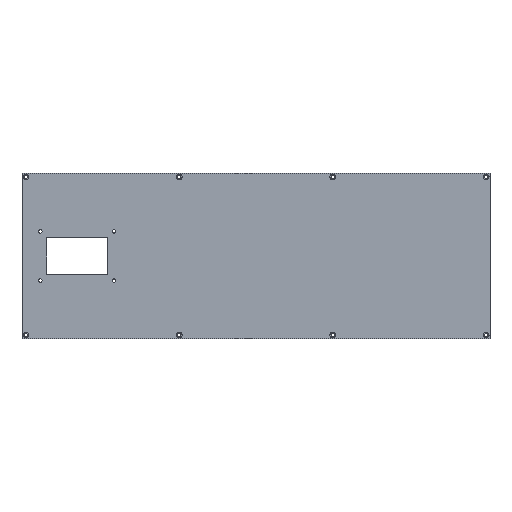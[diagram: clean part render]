
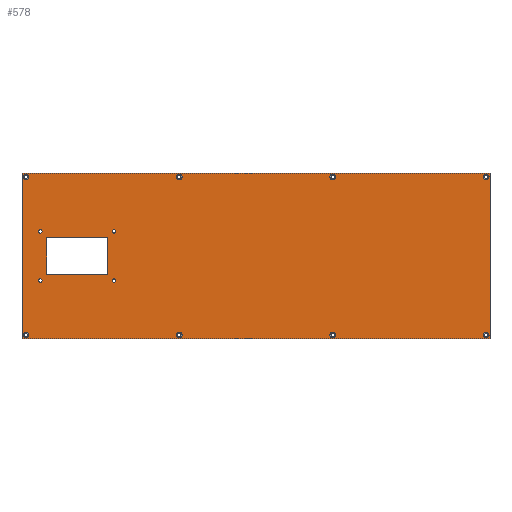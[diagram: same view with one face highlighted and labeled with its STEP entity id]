
A CAD part, top view. The second image highlights one B-rep face of the part: STEP entity #578.
In plain terms, the highlighted planar face has unit normal (0, 0, 1).
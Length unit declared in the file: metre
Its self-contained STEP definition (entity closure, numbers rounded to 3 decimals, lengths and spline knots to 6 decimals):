
#12=LINE('',#947,#36);
#13=LINE('',#950,#37);
#14=LINE('',#952,#38);
#15=LINE('',#954,#39);
#16=LINE('',#955,#40);
#17=LINE('',#958,#41);
#18=LINE('',#960,#42);
#19=LINE('',#962,#43);
#36=VECTOR('',#775,1.);
#37=VECTOR('',#776,1.);
#38=VECTOR('',#777,1.);
#39=VECTOR('',#778,1.);
#40=VECTOR('',#779,1.);
#41=VECTOR('',#780,1.);
#42=VECTOR('',#781,1.);
#43=VECTOR('',#782,1.);
#60=PLANE('',#645);
#94=ORIENTED_EDGE('',*,*,#222,.F.);
#95=ORIENTED_EDGE('',*,*,#223,.F.);
#96=ORIENTED_EDGE('',*,*,#224,.F.);
#97=ORIENTED_EDGE('',*,*,#225,.F.);
#98=ORIENTED_EDGE('',*,*,#226,.F.);
#99=ORIENTED_EDGE('',*,*,#227,.F.);
#100=ORIENTED_EDGE('',*,*,#228,.F.);
#101=ORIENTED_EDGE('',*,*,#229,.F.);
#102=ORIENTED_EDGE('',*,*,#230,.F.);
#103=ORIENTED_EDGE('',*,*,#231,.F.);
#104=ORIENTED_EDGE('',*,*,#232,.F.);
#105=ORIENTED_EDGE('',*,*,#233,.F.);
#106=ORIENTED_EDGE('',*,*,#234,.F.);
#107=ORIENTED_EDGE('',*,*,#235,.T.);
#108=ORIENTED_EDGE('',*,*,#236,.T.);
#109=ORIENTED_EDGE('',*,*,#237,.F.);
#110=ORIENTED_EDGE('',*,*,#238,.F.);
#111=ORIENTED_EDGE('',*,*,#239,.T.);
#112=ORIENTED_EDGE('',*,*,#240,.T.);
#113=ORIENTED_EDGE('',*,*,#241,.F.);
#222=EDGE_CURVE('',#286,#286,#342,.T.);
#223=EDGE_CURVE('',#287,#287,#343,.T.);
#224=EDGE_CURVE('',#288,#288,#344,.T.);
#225=EDGE_CURVE('',#289,#289,#345,.T.);
#226=EDGE_CURVE('',#290,#290,#346,.T.);
#227=EDGE_CURVE('',#291,#291,#347,.T.);
#228=EDGE_CURVE('',#292,#292,#348,.T.);
#229=EDGE_CURVE('',#293,#293,#349,.T.);
#230=EDGE_CURVE('',#294,#294,#350,.T.);
#231=EDGE_CURVE('',#295,#295,#351,.T.);
#232=EDGE_CURVE('',#296,#296,#352,.T.);
#233=EDGE_CURVE('',#297,#297,#353,.T.);
#234=EDGE_CURVE('',#298,#299,#12,.T.);
#235=EDGE_CURVE('',#298,#300,#13,.T.);
#236=EDGE_CURVE('',#300,#301,#14,.T.);
#237=EDGE_CURVE('',#299,#301,#15,.T.);
#238=EDGE_CURVE('',#302,#303,#16,.T.);
#239=EDGE_CURVE('',#302,#304,#17,.T.);
#240=EDGE_CURVE('',#304,#305,#18,.T.);
#241=EDGE_CURVE('',#303,#305,#19,.T.);
#286=VERTEX_POINT('',#924);
#287=VERTEX_POINT('',#926);
#288=VERTEX_POINT('',#928);
#289=VERTEX_POINT('',#930);
#290=VERTEX_POINT('',#932);
#291=VERTEX_POINT('',#934);
#292=VERTEX_POINT('',#936);
#293=VERTEX_POINT('',#938);
#294=VERTEX_POINT('',#940);
#295=VERTEX_POINT('',#942);
#296=VERTEX_POINT('',#944);
#297=VERTEX_POINT('',#946);
#298=VERTEX_POINT('',#948);
#299=VERTEX_POINT('',#949);
#300=VERTEX_POINT('',#951);
#301=VERTEX_POINT('',#953);
#302=VERTEX_POINT('',#956);
#303=VERTEX_POINT('',#957);
#304=VERTEX_POINT('',#959);
#305=VERTEX_POINT('',#961);
#342=CIRCLE('',#646,0.0037);
#343=CIRCLE('',#647,0.0037);
#344=CIRCLE('',#648,0.0037);
#345=CIRCLE('',#649,0.0037);
#346=CIRCLE('',#650,0.0037);
#347=CIRCLE('',#651,0.0037);
#348=CIRCLE('',#652,0.0037);
#349=CIRCLE('',#653,0.0037);
#350=CIRCLE('',#654,0.0022);
#351=CIRCLE('',#655,0.0022);
#352=CIRCLE('',#656,0.0022);
#353=CIRCLE('',#657,0.0022);
#382=EDGE_LOOP('',(#94));
#383=EDGE_LOOP('',(#95));
#384=EDGE_LOOP('',(#96));
#385=EDGE_LOOP('',(#97));
#386=EDGE_LOOP('',(#98));
#387=EDGE_LOOP('',(#99));
#388=EDGE_LOOP('',(#100));
#389=EDGE_LOOP('',(#101));
#390=EDGE_LOOP('',(#102));
#391=EDGE_LOOP('',(#103));
#392=EDGE_LOOP('',(#104));
#393=EDGE_LOOP('',(#105));
#394=EDGE_LOOP('',(#106,#107,#108,#109));
#395=EDGE_LOOP('',(#110,#111,#112,#113));
#474=FACE_BOUND('',#382,.T.);
#475=FACE_BOUND('',#383,.T.);
#476=FACE_BOUND('',#384,.T.);
#477=FACE_BOUND('',#385,.T.);
#478=FACE_BOUND('',#386,.T.);
#479=FACE_BOUND('',#387,.T.);
#480=FACE_BOUND('',#388,.T.);
#481=FACE_BOUND('',#389,.T.);
#482=FACE_BOUND('',#390,.T.);
#483=FACE_BOUND('',#391,.T.);
#484=FACE_BOUND('',#392,.T.);
#485=FACE_BOUND('',#393,.T.);
#486=FACE_BOUND('',#394,.T.);
#487=FACE_BOUND('',#395,.T.);
#578=ADVANCED_FACE('',(#474,#475,#476,#477,#478,#479,#480,#481,#482,#483,
#484,#485,#486,#487),#60,.T.);
#645=AXIS2_PLACEMENT_3D('',#922,#749,#750);
#646=AXIS2_PLACEMENT_3D('',#923,#751,#752);
#647=AXIS2_PLACEMENT_3D('',#925,#753,#754);
#648=AXIS2_PLACEMENT_3D('',#927,#755,#756);
#649=AXIS2_PLACEMENT_3D('',#929,#757,#758);
#650=AXIS2_PLACEMENT_3D('',#931,#759,#760);
#651=AXIS2_PLACEMENT_3D('',#933,#761,#762);
#652=AXIS2_PLACEMENT_3D('',#935,#763,#764);
#653=AXIS2_PLACEMENT_3D('',#937,#765,#766);
#654=AXIS2_PLACEMENT_3D('',#939,#767,#768);
#655=AXIS2_PLACEMENT_3D('',#941,#769,#770);
#656=AXIS2_PLACEMENT_3D('',#943,#771,#772);
#657=AXIS2_PLACEMENT_3D('',#945,#773,#774);
#749=DIRECTION('',(0.,0.,1.));
#750=DIRECTION('',(1.,0.,0.));
#751=DIRECTION('',(0.,0.,1.));
#752=DIRECTION('',(1.,0.,0.));
#753=DIRECTION('',(0.,0.,1.));
#754=DIRECTION('',(1.,0.,0.));
#755=DIRECTION('',(0.,0.,1.));
#756=DIRECTION('',(1.,0.,0.));
#757=DIRECTION('',(0.,0.,1.));
#758=DIRECTION('',(1.,0.,0.));
#759=DIRECTION('',(0.,0.,1.));
#760=DIRECTION('',(1.,0.,0.));
#761=DIRECTION('',(0.,0.,1.));
#762=DIRECTION('',(1.,0.,0.));
#763=DIRECTION('',(0.,0.,1.));
#764=DIRECTION('',(1.,0.,0.));
#765=DIRECTION('',(0.,0.,1.));
#766=DIRECTION('',(1.,0.,0.));
#767=DIRECTION('',(0.,0.,1.));
#768=DIRECTION('',(1.,0.,0.));
#769=DIRECTION('',(0.,0.,1.));
#770=DIRECTION('',(1.,0.,0.));
#771=DIRECTION('',(0.,0.,1.));
#772=DIRECTION('',(1.,0.,0.));
#773=DIRECTION('',(0.,0.,1.));
#774=DIRECTION('',(1.,0.,0.));
#775=DIRECTION('',(-1.,0.,0.));
#776=DIRECTION('',(0.,1.,0.));
#777=DIRECTION('',(-1.,0.,0.));
#778=DIRECTION('',(0.,1.,0.));
#779=DIRECTION('',(0.,1.,0.));
#780=DIRECTION('',(-1.,0.,0.));
#781=DIRECTION('',(0.,1.,0.));
#782=DIRECTION('',(-1.,0.,0.));
#922=CARTESIAN_POINT('',(0.,0.,0.012));
#923=CARTESIAN_POINT('',(-0.1,0.103111,0.012));
#924=CARTESIAN_POINT('',(-0.0963,0.103111,0.012));
#925=CARTESIAN_POINT('',(0.1,0.103111,0.012));
#926=CARTESIAN_POINT('',(0.1037,0.103111,0.012));
#927=CARTESIAN_POINT('',(0.3,0.103111,0.012));
#928=CARTESIAN_POINT('',(0.3037,0.103111,0.012));
#929=CARTESIAN_POINT('',(0.3,-0.103111,0.012));
#930=CARTESIAN_POINT('',(0.3037,-0.103111,0.012));
#931=CARTESIAN_POINT('',(-0.1,-0.103111,0.012));
#932=CARTESIAN_POINT('',(-0.0963,-0.103111,0.012));
#933=CARTESIAN_POINT('',(-0.3,-0.103111,0.012));
#934=CARTESIAN_POINT('',(-0.2963,-0.103111,0.012));
#935=CARTESIAN_POINT('',(0.1,-0.103111,0.012));
#936=CARTESIAN_POINT('',(0.1037,-0.103111,0.012));
#937=CARTESIAN_POINT('',(-0.3,0.103111,0.012));
#938=CARTESIAN_POINT('',(-0.2963,0.103111,0.012));
#939=CARTESIAN_POINT('',(-0.281,-0.032,0.012));
#940=CARTESIAN_POINT('',(-0.2788,-0.032,0.012));
#941=CARTESIAN_POINT('',(-0.185,-0.032,0.012));
#942=CARTESIAN_POINT('',(-0.1828,-0.032,0.012));
#943=CARTESIAN_POINT('',(-0.185,0.032,0.012));
#944=CARTESIAN_POINT('',(-0.1828,0.032,0.012));
#945=CARTESIAN_POINT('',(-0.281,0.032,0.012));
#946=CARTESIAN_POINT('',(-0.2788,0.032,0.012));
#947=CARTESIAN_POINT('',(0.,-0.108111,0.012));
#948=CARTESIAN_POINT('',(0.305,-0.108111,0.012));
#949=CARTESIAN_POINT('',(-0.305,-0.108111,0.012));
#950=CARTESIAN_POINT('',(0.305,0.,0.012));
#951=CARTESIAN_POINT('',(0.305,0.108111,0.012));
#952=CARTESIAN_POINT('',(0.,0.108111,0.012));
#953=CARTESIAN_POINT('',(-0.305,0.108111,0.012));
#954=CARTESIAN_POINT('',(-0.305,0.,0.012));
#955=CARTESIAN_POINT('',(-0.193,0.,0.012));
#956=CARTESIAN_POINT('',(-0.193,-0.024,0.012));
#957=CARTESIAN_POINT('',(-0.193,0.024,0.012));
#958=CARTESIAN_POINT('',(-0.233,-0.024,0.012));
#959=CARTESIAN_POINT('',(-0.273,-0.024,0.012));
#960=CARTESIAN_POINT('',(-0.273,0.,0.012));
#961=CARTESIAN_POINT('',(-0.273,0.024,0.012));
#962=CARTESIAN_POINT('',(-0.233,0.024,0.012));
